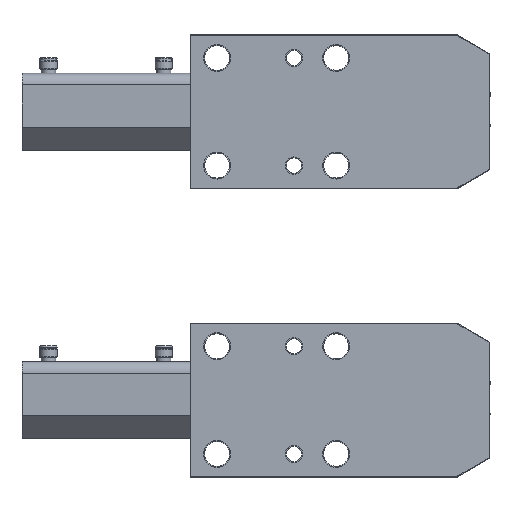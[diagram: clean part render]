
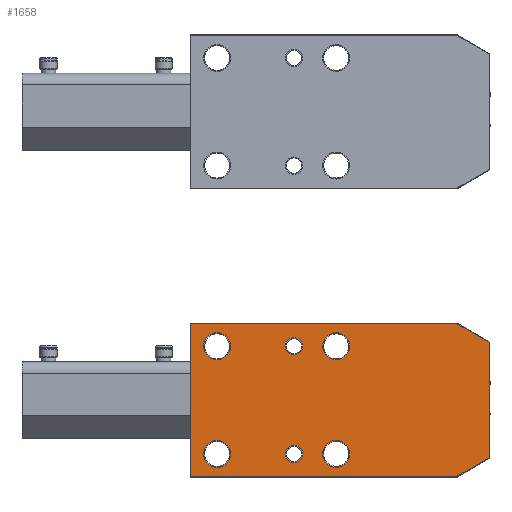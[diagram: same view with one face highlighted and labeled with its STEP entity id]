
A CAD part, top view. The second image highlights one B-rep face of the part: STEP entity #1658.
In plain terms, the highlighted planar face has unit normal (0, 0, 1).
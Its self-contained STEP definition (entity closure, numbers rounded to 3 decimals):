
#1658=ADVANCED_FACE('',(#3779,#3780,#3781,#3782,#3783,#3784,#3785),#3786,.F.);
#3779=FACE_OUTER_BOUND('',#6629,.T.);
#3780=FACE_BOUND('',#6630,.T.);
#3781=FACE_BOUND('',#6631,.T.);
#3782=FACE_BOUND('',#6632,.T.);
#3783=FACE_BOUND('',#6633,.T.);
#3784=FACE_BOUND('',#6634,.T.);
#3785=FACE_BOUND('',#6635,.T.);
#3786=PLANE('',#6636);
#6629=EDGE_LOOP('',(#11558,#11559,#11560,#11561,#11562,#11563));
#6630=EDGE_LOOP('',(#11564));
#6631=EDGE_LOOP('',(#11565));
#6632=EDGE_LOOP('',(#11566));
#6633=EDGE_LOOP('',(#11567));
#6634=EDGE_LOOP('',(#11568));
#6635=EDGE_LOOP('',(#11569));
#6636=AXIS2_PLACEMENT_3D('',#11570,#11571,#11572);
#11558=ORIENTED_EDGE('',*,*,#16065,.F.);
#11559=ORIENTED_EDGE('',*,*,#17133,.F.);
#11560=ORIENTED_EDGE('',*,*,#16293,.F.);
#11561=ORIENTED_EDGE('',*,*,#17118,.F.);
#11562=ORIENTED_EDGE('',*,*,#16844,.F.);
#11563=ORIENTED_EDGE('',*,*,#16637,.F.);
#11564=ORIENTED_EDGE('',*,*,#16332,.T.);
#11565=ORIENTED_EDGE('',*,*,#17197,.T.);
#11566=ORIENTED_EDGE('',*,*,#17202,.T.);
#11567=ORIENTED_EDGE('',*,*,#17204,.T.);
#11568=ORIENTED_EDGE('',*,*,#17294,.T.);
#11569=ORIENTED_EDGE('',*,*,#17200,.T.);
#11570=CARTESIAN_POINT('',(1782.0,-150.0,47.));
#11571=DIRECTION('',(0.0,0.,-1.0));
#11572=DIRECTION('',(0.0,-1.0,0.));
#16065=EDGE_CURVE('',#18937,#18939,#18940,.T.);
#16293=EDGE_CURVE('',#19338,#19340,#19341,.T.);
#16332=EDGE_CURVE('',#19400,#19400,#19401,.T.);
#16637=EDGE_CURVE('',#18939,#19923,#19924,.T.);
#16844=EDGE_CURVE('',#19923,#20237,#20238,.T.);
#17118=EDGE_CURVE('',#20237,#19338,#20606,.T.);
#17133=EDGE_CURVE('',#19340,#18937,#20623,.T.);
#17197=EDGE_CURVE('',#20691,#20691,#20692,.T.);
#17200=EDGE_CURVE('',#20696,#20696,#20697,.T.);
#17202=EDGE_CURVE('',#20699,#20699,#20700,.T.);
#17204=EDGE_CURVE('',#20702,#20702,#20703,.T.);
#17294=EDGE_CURVE('',#20816,#20816,#20817,.T.);
#18937=VERTEX_POINT('',#23245);
#18939=VERTEX_POINT('',#23248);
#18940=LINE('',#23249,#23250);
#19338=VERTEX_POINT('',#23856);
#19340=VERTEX_POINT('',#23859);
#19341=LINE('',#23860,#23861);
#19400=VERTEX_POINT('',#23956);
#19401=CIRCLE('',#23957,4.5);
#19923=VERTEX_POINT('',#24859);
#19924=LINE('',#24860,#24861);
#20237=VERTEX_POINT('',#25366);
#20238=LINE('',#25367,#25368);
#20606=LINE('',#25997,#25998);
#20623=LINE('',#26024,#26025);
#20691=VERTEX_POINT('',#26128);
#20692=CIRCLE('',#26129,4.5);
#20696=VERTEX_POINT('',#26133);
#20697=CIRCLE('',#26134,7.0);
#20699=VERTEX_POINT('',#26136);
#20700=CIRCLE('',#26137,7.0);
#20702=VERTEX_POINT('',#26139);
#20703=CIRCLE('',#26140,7.0);
#20816=VERTEX_POINT('',#26297);
#20817=CIRCLE('',#26298,7.0);
#23245=CARTESIAN_POINT('',(155.75,10.065,47.));
#23248=CARTESIAN_POINT('',(138.75,0.25,47.));
#23249=CARTESIAN_POINT('',(1306.127,674.236,47.));
#23250=VECTOR('',#29921,1.0);
#23856=CARTESIAN_POINT('',(138.75,79.75,47.0));
#23859=CARTESIAN_POINT('',(155.75,69.935,47.0));
#23860=CARTESIAN_POINT('',(1470.672,-689.236,47.));
#23861=VECTOR('',#30104,1.0);
#23956=CARTESIAN_POINT('',(49.5,68.,47.0));
#23957=AXIS2_PLACEMENT_3D('',#30129,#30130,#30131);
#24859=CARTESIAN_POINT('',(0.25,0.25,47.));
#24860=CARTESIAN_POINT('',(0.25,0.25,47.));
#24861=VECTOR('',#30311,1.0);
#25366=CARTESIAN_POINT('',(0.25,79.75,47.0));
#25367=CARTESIAN_POINT('',(0.25,79.75,47.0));
#25368=VECTOR('',#30447,1.0);
#25997=CARTESIAN_POINT('',(139.933,79.75,47.0));
#25998=VECTOR('',#30586,1.0);
#26024=CARTESIAN_POINT('',(155.75,9.382,47.));
#26025=VECTOR('',#30594,1.0);
#26128=CARTESIAN_POINT('',(49.5,12.,47.));
#26129=AXIS2_PLACEMENT_3D('',#30614,#30615,#30616);
#26133=CARTESIAN_POINT('',(14.,19.,47.));
#26134=AXIS2_PLACEMENT_3D('',#30620,#30621,#30622);
#26136=CARTESIAN_POINT('',(14.,75.,47.0));
#26137=AXIS2_PLACEMENT_3D('',#30623,#30624,#30625);
#26139=CARTESIAN_POINT('',(76.,75.,47.0));
#26140=AXIS2_PLACEMENT_3D('',#30626,#30627,#30628);
#26297=CARTESIAN_POINT('',(76.,19.,47.));
#26298=AXIS2_PLACEMENT_3D('',#30702,#30703,#30704);
#29921=DIRECTION('',(-0.866,-0.5,0.));
#30104=DIRECTION('',(0.866,-0.5,0.));
#30129=CARTESIAN_POINT('',(54.,68.,47.0));
#30130=DIRECTION('',(-0.0,0.,-1.0));
#30131=DIRECTION('',(-1.0,0.0,0.0));
#30311=DIRECTION('',(-1.0,0.0,0.0));
#30447=DIRECTION('',(0.0,1.0,0.));
#30586=DIRECTION('',(1.0,0.0,0.0));
#30594=DIRECTION('',(0.0,-1.0,0.));
#30614=CARTESIAN_POINT('',(54.,12.,47.));
#30615=DIRECTION('',(-0.0,0.,-1.0));
#30616=DIRECTION('',(-1.0,0.0,0.0));
#30620=CARTESIAN_POINT('',(14.,12.,47.));
#30621=DIRECTION('',(0.0,0.,-1.0));
#30622=DIRECTION('',(0.0,1.0,0.));
#30623=CARTESIAN_POINT('',(14.,68.,47.0));
#30624=DIRECTION('',(0.0,0.,-1.0));
#30625=DIRECTION('',(0.0,1.0,0.));
#30626=CARTESIAN_POINT('',(76.,68.,47.0));
#30627=DIRECTION('',(0.0,0.,-1.0));
#30628=DIRECTION('',(0.0,1.0,0.));
#30702=CARTESIAN_POINT('',(76.,12.,47.));
#30703=DIRECTION('',(0.0,0.,-1.0));
#30704=DIRECTION('',(0.0,1.0,0.));
